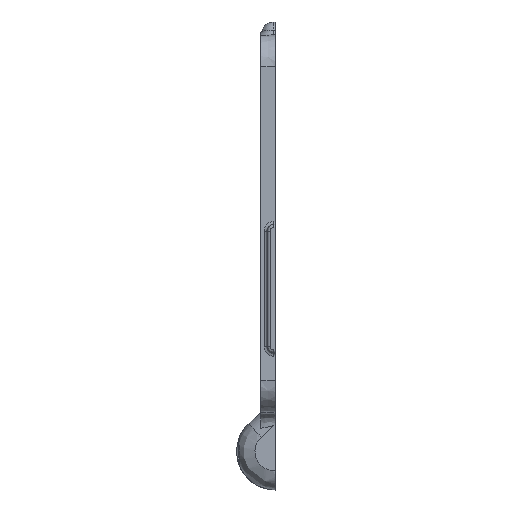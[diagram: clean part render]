
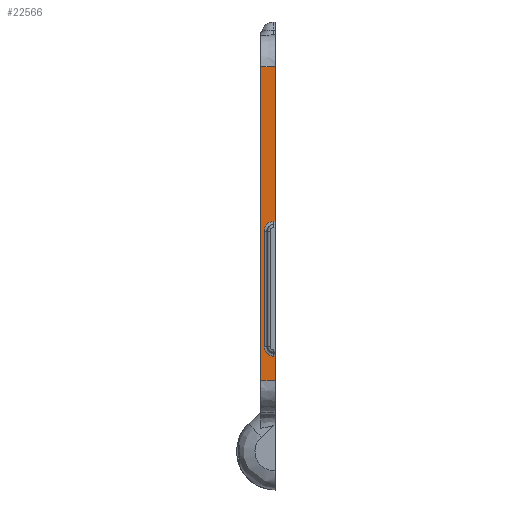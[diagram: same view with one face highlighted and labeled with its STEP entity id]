
A CAD part, left-side view. The second image highlights one B-rep face of the part: STEP entity #22566.
In plain terms, the highlighted planar face has unit normal (-0.999, 0.035, 0).
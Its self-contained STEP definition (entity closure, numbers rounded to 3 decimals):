
#2035=FACE_OUTER_BOUND('',#3492,.T.);
#3492=EDGE_LOOP('',(#18711,#18712,#18713,#18714,#18715,#18716,#18717,#18718,
#18719,#18720));
#5513=ELLIPSE('',#24894,1.501,1.5);
#5514=ELLIPSE('',#24898,1.501,1.5);
#6719=LINE('',#31821,#7672);
#6721=LINE('',#31893,#7674);
#6862=LINE('',#32823,#7815);
#7548=LINE('',#45467,#8501);
#7549=LINE('',#45500,#8502);
#7550=LINE('',#45531,#8503);
#7551=LINE('',#45533,#8504);
#7552=LINE('',#45534,#8505);
#7672=VECTOR('',#25753,10.);
#7674=VECTOR('',#25759,10.);
#7815=VECTOR('',#26166,10.);
#8501=VECTOR('',#29984,10.);
#8502=VECTOR('',#29995,10.);
#8503=VECTOR('',#30004,10.);
#8504=VECTOR('',#30007,10.);
#8505=VECTOR('',#30008,10.);
#8632=VERTEX_POINT('',#31818);
#8633=VERTEX_POINT('',#31820);
#8638=VERTEX_POINT('',#31890);
#8639=VERTEX_POINT('',#31892);
#8911=VERTEX_POINT('',#32820);
#8912=VERTEX_POINT('',#32822);
#10406=VERTEX_POINT('',#45466);
#10407=VERTEX_POINT('',#45495);
#10408=VERTEX_POINT('',#45499);
#10409=VERTEX_POINT('',#45527);
#10784=EDGE_CURVE('',#8633,#8632,#6719,.T.);
#10790=EDGE_CURVE('',#8639,#8638,#6721,.T.);
#11077=EDGE_CURVE('',#8912,#8911,#6862,.T.);
#13419=EDGE_CURVE('',#8633,#10406,#7548,.T.);
#13421=EDGE_CURVE('',#10406,#10407,#5513,.T.);
#13423=EDGE_CURVE('',#10407,#10408,#7549,.T.);
#13425=EDGE_CURVE('',#10408,#10409,#5514,.T.);
#13427=EDGE_CURVE('',#10409,#8638,#7550,.T.);
#13428=EDGE_CURVE('',#8632,#8912,#7551,.T.);
#13429=EDGE_CURVE('',#8639,#8911,#7552,.T.);
#18711=ORIENTED_EDGE('',*,*,#13427,.F.);
#18712=ORIENTED_EDGE('',*,*,#13425,.F.);
#18713=ORIENTED_EDGE('',*,*,#13423,.F.);
#18714=ORIENTED_EDGE('',*,*,#13421,.F.);
#18715=ORIENTED_EDGE('',*,*,#13419,.F.);
#18716=ORIENTED_EDGE('',*,*,#10784,.T.);
#18717=ORIENTED_EDGE('',*,*,#13428,.T.);
#18718=ORIENTED_EDGE('',*,*,#11077,.T.);
#18719=ORIENTED_EDGE('',*,*,#13429,.F.);
#18720=ORIENTED_EDGE('',*,*,#10790,.T.);
#21715=PLANE('',#24901);
#22566=ADVANCED_FACE('',(#2035),#21715,.T.);
#24894=AXIS2_PLACEMENT_3D('',#45496,#29989,#29990);
#24898=AXIS2_PLACEMENT_3D('',#45528,#29998,#29999);
#24901=AXIS2_PLACEMENT_3D('',#45532,#30005,#30006);
#25753=DIRECTION('',(0.,0.,1.));
#25759=DIRECTION('',(0.,0.,1.));
#26166=DIRECTION('',(0.,0.,-1.));
#29984=DIRECTION('',(0.035,0.998,-0.052));
#29989=DIRECTION('center_axis',(-0.999,0.035,0.));
#29990=DIRECTION('ref_axis',(0.035,0.999,0.));
#29995=DIRECTION('',(0.,0.,-1.));
#29998=DIRECTION('center_axis',(-0.999,0.035,0.));
#29999=DIRECTION('ref_axis',(0.035,0.999,0.));
#30004=DIRECTION('',(-0.035,-0.998,-0.052));
#30005=DIRECTION('center_axis',(-0.999,0.035,0.));
#30006=DIRECTION('ref_axis',(0.,0.,1.));
#30007=DIRECTION('',(0.035,0.999,0.));
#30008=DIRECTION('',(0.035,0.999,0.));
#31818=CARTESIAN_POINT('',(0.,0.,-5.));
#31820=CARTESIAN_POINT('',(0.,0.,-29.009));
#31821=CARTESIAN_POINT('',(0.,0.,-53.817));
#31890=CARTESIAN_POINT('',(0.,0.,-50.008));
#31892=CARTESIAN_POINT('',(0.,0.,-53.817));
#31893=CARTESIAN_POINT('',(0.,0.,-53.817));
#32820=CARTESIAN_POINT('',(0.079,2.25,-53.817));
#32822=CARTESIAN_POINT('',(0.079,2.25,-5.));
#32823=CARTESIAN_POINT('',(0.079,2.25,-53.817));
#45466=CARTESIAN_POINT('',(0.011,0.311,-29.025));
#45467=CARTESIAN_POINT('',(-0.021,-0.601,-28.977));
#45495=CARTESIAN_POINT('',(0.061,1.733,-30.523));
#45496=CARTESIAN_POINT('Origin',(0.008,0.233,
-30.523));
#45499=CARTESIAN_POINT('',(0.061,1.733,-48.494));
#45500=CARTESIAN_POINT('',(0.061,1.733,-22.254));
#45527=CARTESIAN_POINT('',(0.011,0.311,-49.992));
#45528=CARTESIAN_POINT('Origin',(0.008,0.233,
-48.494));
#45531=CARTESIAN_POINT('',(0.041,1.175,-49.947));
#45532=CARTESIAN_POINT('Origin',(0.,0.,-5.));
#45533=CARTESIAN_POINT('',(0.,0.,-5.));
#45534=CARTESIAN_POINT('',(0.,0.,-53.817));
